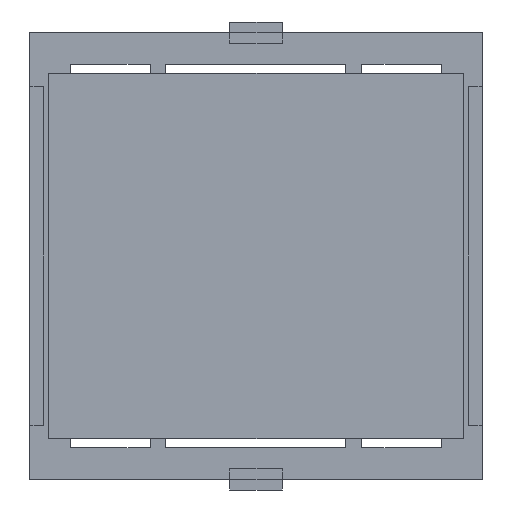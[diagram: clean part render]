
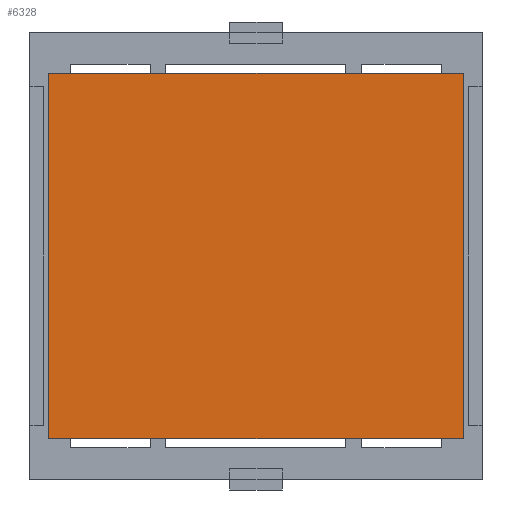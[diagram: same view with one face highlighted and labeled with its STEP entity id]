
A CAD part, front view. The second image highlights one B-rep face of the part: STEP entity #6328.
In plain terms, the highlighted planar face has unit normal (0, -1, 0).
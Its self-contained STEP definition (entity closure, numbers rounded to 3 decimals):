
#103 = DIRECTION ( 'NONE',  ( 0., 1., 0. ) ) ;
#689 = LINE ( 'NONE', #1290, #4221 ) ;
#1000 = EDGE_CURVE ( 'NONE', #4141, #1585, #2305, .T. ) ;
#1192 = VERTEX_POINT ( 'NONE', #3150 ) ;
#1270 = EDGE_CURVE ( 'NONE', #3048, #1192, #689, .T. ) ;
#1290 = CARTESIAN_POINT ( 'NONE',  ( -19.558, -0.127, -17.272 ) ) ;
#1585 = VERTEX_POINT ( 'NONE', #6122 ) ;
#1751 = DIRECTION ( 'NONE',  ( 0., 0., 1. ) ) ;
#1875 = FACE_OUTER_BOUND ( 'NONE', #6803, .T. ) ;
#1945 = CARTESIAN_POINT ( 'NONE',  ( 19.558, -0.127, -17.272 ) ) ;
#2095 = CARTESIAN_POINT ( 'NONE',  ( 19.558, -0.127, -17.272 ) ) ;
#2305 = LINE ( 'NONE', #6885, #5882 ) ;
#2358 = DIRECTION ( 'NONE',  ( 0., 0., 1. ) ) ;
#2494 = CARTESIAN_POINT ( 'NONE',  ( -19.558, -0.127, 17.272 ) ) ;
#2645 = LINE ( 'NONE', #2095, #7226 ) ;
#2703 = EDGE_CURVE ( 'NONE', #1585, #3048, #2645, .T. ) ;
#3048 = VERTEX_POINT ( 'NONE', #1945 ) ;
#3150 = CARTESIAN_POINT ( 'NONE',  ( -19.558, -0.127, -17.272 ) ) ;
#3674 = CARTESIAN_POINT ( 'NONE',  ( -19.558, -0.127, 17.272 ) ) ;
#3768 = ORIENTED_EDGE ( 'NONE', *, *, #2703, .F. ) ;
#4141 = VERTEX_POINT ( 'NONE', #2494 ) ;
#4211 = DIRECTION ( 'NONE',  ( 1., 0., 0. ) ) ;
#4221 = VECTOR ( 'NONE', #6437, 1000. ) ;
#4734 = VECTOR ( 'NONE', #1751, 1000. ) ;
#4836 = AXIS2_PLACEMENT_3D ( 'NONE', #3674, #103, #2358 ) ;
#5421 = DIRECTION ( 'NONE',  ( 0., 0., -1. ) ) ;
#5663 = EDGE_CURVE ( 'NONE', #1192, #4141, #5847, .T. ) ;
#5847 = LINE ( 'NONE', #7040, #4734 ) ;
#5859 = PLANE ( 'NONE',  #4836 ) ;
#5882 = VECTOR ( 'NONE', #4211, 1000. ) ;
#6122 = CARTESIAN_POINT ( 'NONE',  ( 19.558, -0.127, 17.272 ) ) ;
#6199 = ORIENTED_EDGE ( 'NONE', *, *, #1270, .F. ) ;
#6328 = ADVANCED_FACE ( 'NONE', ( #1875 ), #5859, .F. ) ;
#6437 = DIRECTION ( 'NONE',  ( -1., 0., 0. ) ) ;
#6732 = ORIENTED_EDGE ( 'NONE', *, *, #1000, .F. ) ;
#6803 = EDGE_LOOP ( 'NONE', ( #7051, #6199, #3768, #6732 ) ) ;
#6885 = CARTESIAN_POINT ( 'NONE',  ( -19.558, -0.127, 17.272 ) ) ;
#7040 = CARTESIAN_POINT ( 'NONE',  ( -19.558, -0.127, -17.272 ) ) ;
#7051 = ORIENTED_EDGE ( 'NONE', *, *, #5663, .F. ) ;
#7226 = VECTOR ( 'NONE', #5421, 1000. ) ;
